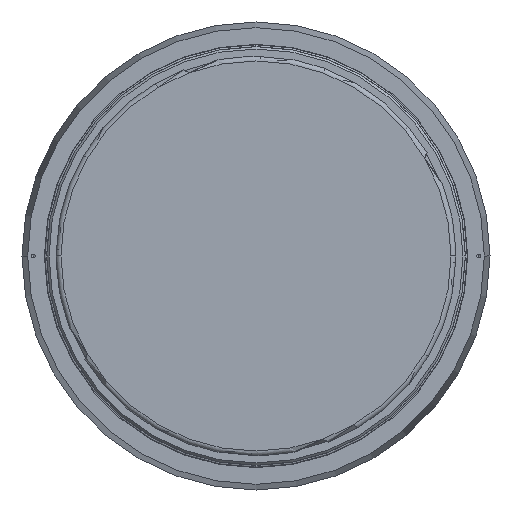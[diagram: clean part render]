
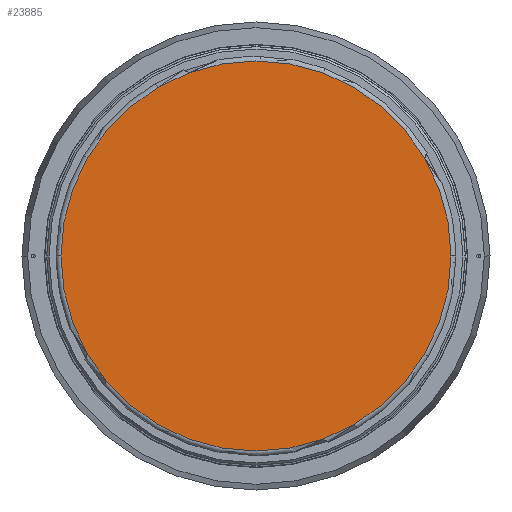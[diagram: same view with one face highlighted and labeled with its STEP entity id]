
A CAD part, front view. The second image highlights one B-rep face of the part: STEP entity #23885.
In plain terms, the highlighted planar face has unit normal (0, -1, 0).
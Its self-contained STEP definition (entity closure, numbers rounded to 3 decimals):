
#8501 = VERTEX_POINT ( 'NONE', #132101 ) ;
#16056 = CIRCLE ( 'NONE', #80966, 512.5 ) ;
#16391 = CIRCLE ( 'NONE', #110817, 512.5 ) ;
#23885 = ADVANCED_FACE ( 'NONE', ( #114258 ), #97717, .T. ) ;
#41038 = VERTEX_POINT ( 'NONE', #119098 ) ;
#47755 = DIRECTION ( 'NONE',  ( 0., -1., 0. ) ) ;
#51877 = CARTESIAN_POINT ( 'NONE',  ( 0., 0., 0. ) ) ;
#53505 = EDGE_CURVE ( 'NONE', #8501, #41038, #16391, .T. ) ;
#64215 = DIRECTION ( 'NONE',  ( 0., 0., 1. ) ) ;
#73525 = DIRECTION ( 'NONE',  ( 0., -1., 0. ) ) ;
#78525 = ORIENTED_EDGE ( 'NONE', *, *, #93111, .T. ) ;
#80966 = AXIS2_PLACEMENT_3D ( 'NONE', #51877, #137855, #64215 ) ;
#82576 = ORIENTED_EDGE ( 'NONE', *, *, #53505, .T. ) ;
#93111 = EDGE_CURVE ( 'NONE', #41038, #8501, #16056, .T. ) ;
#97717 = PLANE ( 'NONE',  #127414 ) ;
#110817 = AXIS2_PLACEMENT_3D ( 'NONE', #121377, #47755, #133749 ) ;
#114258 = FACE_OUTER_BOUND ( 'NONE', #157166, .T. ) ;
#119098 = CARTESIAN_POINT ( 'NONE',  ( 512.5, 0., 0. ) ) ;
#121377 = CARTESIAN_POINT ( 'NONE',  ( 0., 0., 0. ) ) ;
#127414 = AXIS2_PLACEMENT_3D ( 'NONE', #147172, #73525, #159501 ) ;
#132101 = CARTESIAN_POINT ( 'NONE',  ( -512.5, 0., 0. ) ) ;
#133749 = DIRECTION ( 'NONE',  ( 0., 0., 1. ) ) ;
#137855 = DIRECTION ( 'NONE',  ( 0., -1., 0. ) ) ;
#147172 = CARTESIAN_POINT ( 'NONE',  ( 0., 0., 0. ) ) ;
#157166 = EDGE_LOOP ( 'NONE', ( #82576, #78525 ) ) ;
#159501 = DIRECTION ( 'NONE',  ( 0., 0., 1. ) ) ;
